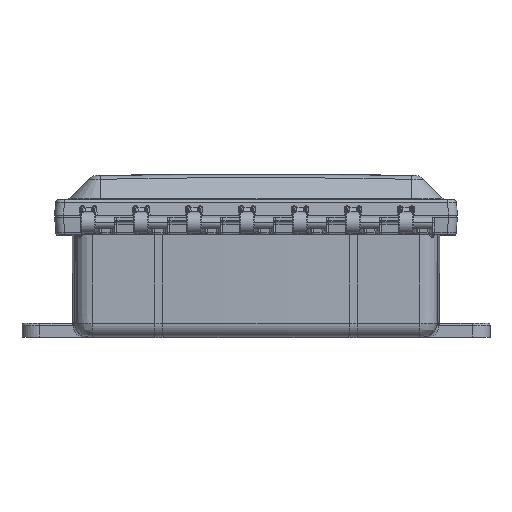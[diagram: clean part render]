
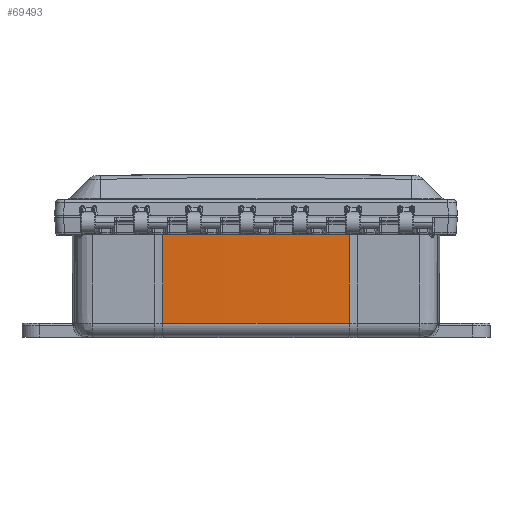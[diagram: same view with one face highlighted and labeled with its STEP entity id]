
A CAD part, top view. The second image highlights one B-rep face of the part: STEP entity #69493.
In plain terms, the highlighted conical face has half-angle 0.25 degrees and reference radius 1537.32 mm.
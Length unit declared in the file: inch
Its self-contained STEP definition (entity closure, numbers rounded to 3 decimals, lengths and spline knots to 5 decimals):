
#5000=CARTESIAN_POINT('',(0.,-3.0017,-56.32875));
#5001=DIRECTION('',(0.,-1.,0.));
#5002=DIRECTION('',(0.044,0.,0.999));
#5003=AXIS2_PLACEMENT_3D('',#5000,#5001,#5002);
#15390=DIRECTION('',(0.,1.,0.004));
#15391=VECTOR('',#15390,2.79701);
#15392=CARTESIAN_POINT('',(2.64249,-3.0017,
4.13168));
#15393=LINE('',#15392,#15391);
#15404=DIRECTION('',(0.,1.,0.004));
#15405=VECTOR('',#15404,2.79701);
#15406=CARTESIAN_POINT('',(-2.64249,-3.0017,
4.13168));
#15407=LINE('',#15406,#15405);
#16011=CARTESIAN_POINT('',(0.,-0.20472,-56.32875));
#16012=DIRECTION('',(0.,1.,0.));
#16013=DIRECTION('',(-0.044,0.,0.999));
#16014=AXIS2_PLACEMENT_3D('',#16011,#16012,#16013);
#48441=CARTESIAN_POINT('',(2.64249,-3.0017,
4.13168));
#48442=VERTEX_POINT('',#48441);
#48443=CARTESIAN_POINT('',(-2.64249,-3.0017,
4.13168));
#48444=VERTEX_POINT('',#48443);
#48587=CARTESIAN_POINT('',(2.64302,-0.20472,
4.14388));
#48588=VERTEX_POINT('',#48587);
#48589=CARTESIAN_POINT('',(-2.64302,-0.20472,
4.14388));
#48590=VERTEX_POINT('',#48589);
#69480=CARTESIAN_POINT('',(0.,-1.60321,-56.32875));
#69481=DIRECTION('',(0.,1.,0.));
#69482=DIRECTION('',(1.,0.,0.));
#69483=AXIS2_PLACEMENT_3D('',#69480,#69481,#69482);
#69484=CONICAL_SURFACE('',#69483,60.52425,0.25);
#69485=ORIENTED_EDGE('',*,*,#53805,.T.);
#69487=ORIENTED_EDGE('',*,*,#69486,.T.);
#69489=ORIENTED_EDGE('',*,*,#69488,.T.);
#69490=ORIENTED_EDGE('',*,*,#69472,.F.);
#69491=EDGE_LOOP('',(#69485,#69487,#69489,#69490));
#69492=FACE_OUTER_BOUND('',#69491,.F.);
#5004=CIRCLE('',#5003,60.51815);
#16015=CIRCLE('',#16014,60.53036);
#53805=EDGE_CURVE('',#48442,#48444,#5004,.T.);
#69472=EDGE_CURVE('',#48442,#48588,#15393,.T.);
#69486=EDGE_CURVE('',#48444,#48590,#15407,.T.);
#69488=EDGE_CURVE('',#48590,#48588,#16015,.T.);
#69493=ADVANCED_FACE('',(#69492),#69484,.T.);
